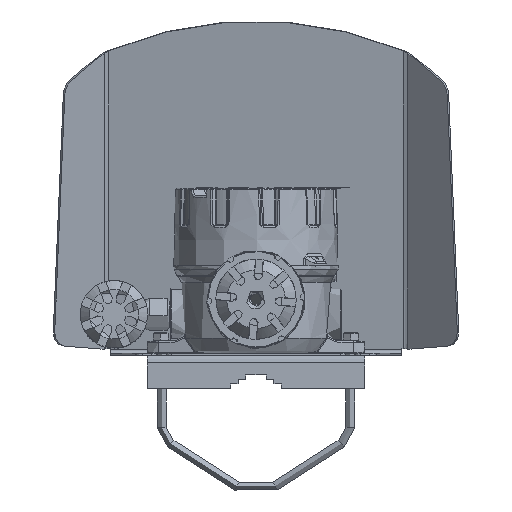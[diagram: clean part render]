
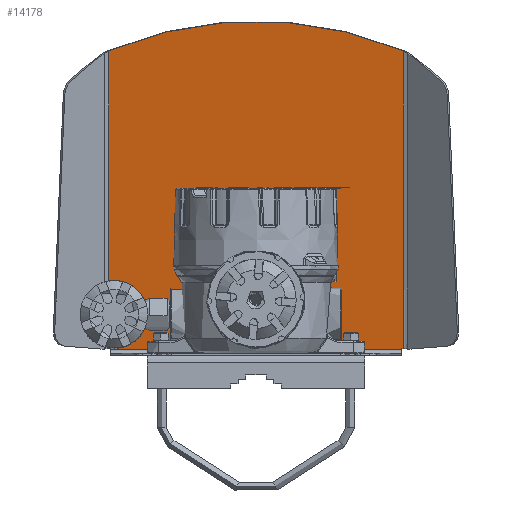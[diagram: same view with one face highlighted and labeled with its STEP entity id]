
A CAD part, front view. The second image highlights one B-rep face of the part: STEP entity #14178.
In plain terms, the highlighted planar face has unit normal (0, -0.985, -0.174) as drawn and (0, 0, 1) by its records, which use the part's own axes.
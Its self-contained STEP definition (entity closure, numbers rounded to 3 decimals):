
#14178=ADVANCED_FACE('',(#65497),#65499,.T.);
#65497=FACE_BOUND('',#65498,.T.);
#65498=EDGE_LOOP('',(#93859,#93860,#93861,#93862,#93863,#93864,#93865,#93866));
#65499=PLANE('',#65500);
#65500=AXIS2_PLACEMENT_3D('',#65501,#65502,#65503);
#65501=CARTESIAN_POINT('',(0.,0.,1.5));
#65502=DIRECTION('',(0.,0.,1.));
#65503=DIRECTION('',(1.,0.,0.));
#93859=ORIENTED_EDGE('',*,*,#119158,.T.);
#93860=ORIENTED_EDGE('',*,*,#119159,.T.);
#93861=ORIENTED_EDGE('',*,*,#119160,.T.);
#93862=ORIENTED_EDGE('',*,*,#119161,.T.);
#93863=ORIENTED_EDGE('',*,*,#119162,.T.);
#93864=ORIENTED_EDGE('',*,*,#119163,.F.);
#93865=ORIENTED_EDGE('',*,*,#119164,.T.);
#93866=ORIENTED_EDGE('',*,*,#119165,.T.);
#119158=EDGE_CURVE('',#133177,#133178,#133179,.T.);
#119159=EDGE_CURVE('',#133178,#133180,#133181,.T.);
#119160=EDGE_CURVE('',#133180,#133182,#133183,.T.);
#119161=EDGE_CURVE('',#133182,#133184,#133185,.T.);
#119162=EDGE_CURVE('',#133184,#133186,#133187,.T.);
#119163=EDGE_CURVE('',#133188,#133186,#133189,.T.);
#119164=EDGE_CURVE('',#133188,#133190,#133191,.T.);
#119165=EDGE_CURVE('',#133190,#133177,#133192,.T.);
#133177=VERTEX_POINT('',#177633);
#133178=VERTEX_POINT('',#177634);
#133179=LINE('',#177635,#177636);
#133180=VERTEX_POINT('',#177638);
#133181=LINE('',#177639,#177640);
#133182=VERTEX_POINT('',#177642);
#133183=LINE('',#177643,#177644);
#133184=VERTEX_POINT('',#177646);
#133185=LINE('',#177647,#177648);
#133186=VERTEX_POINT('',#177650);
#133187=CIRCLE('',#177651,250.);
#133188=VERTEX_POINT('',#177655);
#133189=LINE('',#177656,#177657);
#133190=VERTEX_POINT('',#177659);
#133191=LINE('',#177660,#177661);
#133192=LINE('',#177663,#177664);
#177633=CARTESIAN_POINT('',(-97.,-0.616,1.5));
#177634=CARTESIAN_POINT('',(97.,-0.616,1.5));
#177635=CARTESIAN_POINT('',(-97.,-0.616,1.5));
#177636=VECTOR('',#177637,1.);
#177637=DIRECTION('',(1.,0.,0.));
#177638=CARTESIAN_POINT('',(97.,0.,1.5));
#177639=CARTESIAN_POINT('',(97.,-0.616,1.5));
#177640=VECTOR('',#177641,1.);
#177641=DIRECTION('',(0.,1.,0.));
#177642=CARTESIAN_POINT('',(98.18,0.,1.5));
#177643=CARTESIAN_POINT('',(97.,0.,1.5));
#177644=VECTOR('',#177645,1.);
#177645=DIRECTION('',(1.,0.,0.));
#177646=CARTESIAN_POINT('',(98.18,201.914,1.5));
#177647=CARTESIAN_POINT('',(98.18,0.,1.5));
#177648=VECTOR('',#177649,1.);
#177649=DIRECTION('',(0.,1.,0.));
#177650=CARTESIAN_POINT('',(-98.18,201.914,1.5));
#177651=AXIS2_PLACEMENT_3D('',#177652,#177653,#177654);
#177652=CARTESIAN_POINT('',(0.,-28.,1.5));
#177653=DIRECTION('',(0.,0.,1.));
#177654=DIRECTION('',(0.393,0.92,0.));
#177655=CARTESIAN_POINT('',(-98.18,0.,1.5));
#177656=CARTESIAN_POINT('',(-98.18,0.,1.5));
#177657=VECTOR('',#177658,1.);
#177658=DIRECTION('',(0.,1.,0.));
#177659=CARTESIAN_POINT('',(-97.,0.,1.5));
#177660=CARTESIAN_POINT('',(-98.18,0.,1.5));
#177661=VECTOR('',#177662,1.);
#177662=DIRECTION('',(1.,0.,0.));
#177663=CARTESIAN_POINT('',(-97.,0.,1.5));
#177664=VECTOR('',#177665,1.);
#177665=DIRECTION('',(0.,-1.,0.));
